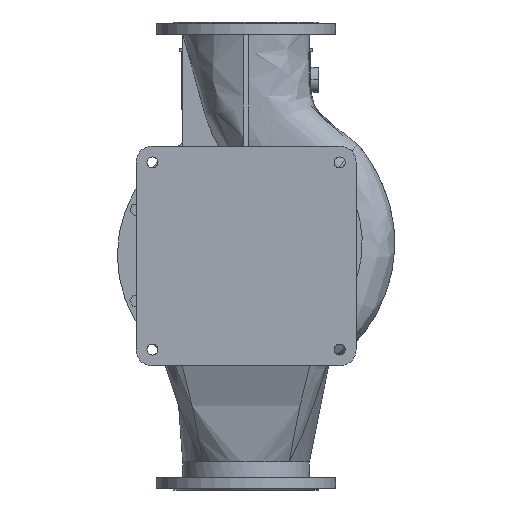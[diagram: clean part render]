
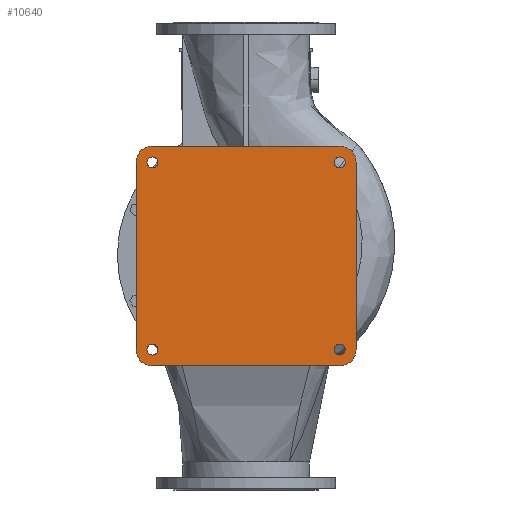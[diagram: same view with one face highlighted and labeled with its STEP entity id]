
A CAD part, front view. The second image highlights one B-rep face of the part: STEP entity #10640.
In plain terms, the highlighted planar face has unit normal (0, -1, 0).
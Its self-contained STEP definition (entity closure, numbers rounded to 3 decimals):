
#233 = EDGE_LOOP ( 'NONE', ( #7731, #9352 ) ) ;
#655 = LINE ( 'NONE', #32796, #36299 ) ;
#741 = CARTESIAN_POINT ( 'NONE',  ( 240., -290., 254. ) ) ;
#864 = CARTESIAN_POINT ( 'NONE',  ( -240., -290., 226. ) ) ;
#1161 = DIRECTION ( 'NONE',  ( 0., 1., 0. ) ) ;
#1386 = LINE ( 'NONE', #10170, #24339 ) ;
#1806 = ORIENTED_EDGE ( 'NONE', *, *, #2646, .F. ) ;
#2058 = CARTESIAN_POINT ( 'NONE',  ( 240., -290., 226. ) ) ;
#2646 = EDGE_CURVE ( 'NONE', #15135, #26067, #12590, .T. ) ;
#3631 = DIRECTION ( 'NONE',  ( 0., 0., 1. ) ) ;
#4041 = CARTESIAN_POINT ( 'NONE',  ( -240., -290., -240. ) ) ;
#4657 = ORIENTED_EDGE ( 'NONE', *, *, #7659, .F. ) ;
#5446 = CARTESIAN_POINT ( 'NONE',  ( 240., -290., -240. ) ) ;
#5621 = CARTESIAN_POINT ( 'NONE',  ( -240., -290., 240. ) ) ;
#5633 = DIRECTION ( 'NONE',  ( 0., 0., -1. ) ) ;
#5961 = CARTESIAN_POINT ( 'NONE',  ( -240., -290., 240. ) ) ;
#6209 = DIRECTION ( 'NONE',  ( 0., 0., -1. ) ) ;
#6739 = DIRECTION ( 'NONE',  ( 0., 0., -1. ) ) ;
#6744 = CIRCLE ( 'NONE', #25845, 14. ) ;
#7124 = CARTESIAN_POINT ( 'NONE',  ( -282., -290., 240. ) ) ;
#7137 = ORIENTED_EDGE ( 'NONE', *, *, #30358, .T. ) ;
#7164 = VERTEX_POINT ( 'NONE', #2058 ) ;
#7659 = EDGE_CURVE ( 'NONE', #19277, #18722, #655, .T. ) ;
#7731 = ORIENTED_EDGE ( 'NONE', *, *, #20603, .T. ) ;
#7747 = EDGE_CURVE ( 'NONE', #33507, #27019, #1386, .T. ) ;
#8233 = CARTESIAN_POINT ( 'NONE',  ( 282., -290., 240. ) ) ;
#8292 = DIRECTION ( 'NONE',  ( 0., 1., 0. ) ) ;
#8362 = AXIS2_PLACEMENT_3D ( 'NONE', #33262, #33084, #30270 ) ;
#8621 = FACE_BOUND ( 'NONE', #17256, .T. ) ;
#8665 = DIRECTION ( 'NONE',  ( 0., 0., -1. ) ) ;
#9115 = VERTEX_POINT ( 'NONE', #17830 ) ;
#9352 = ORIENTED_EDGE ( 'NONE', *, *, #19248, .T. ) ;
#9481 = CIRCLE ( 'NONE', #27374, 42. ) ;
#9556 = ORIENTED_EDGE ( 'NONE', *, *, #34848, .T. ) ;
#10026 = DIRECTION ( 'NONE',  ( 0., 0., -1. ) ) ;
#10170 = CARTESIAN_POINT ( 'NONE',  ( -282., -290., -240. ) ) ;
#10345 = DIRECTION ( 'NONE',  ( 0., 0., 1. ) ) ;
#10640 = ADVANCED_FACE ( 'NONE', ( #19655, #8621, #26005, #14233, #28255 ), #28067, .T. ) ;
#10673 = AXIS2_PLACEMENT_3D ( 'NONE', #5961, #17383, #20856 ) ;
#10791 = EDGE_CURVE ( 'NONE', #35278, #15135, #29239, .T. ) ;
#11187 = CARTESIAN_POINT ( 'NONE',  ( 240., -290., -240. ) ) ;
#11887 = ORIENTED_EDGE ( 'NONE', *, *, #34030, .F. ) ;
#12208 = CARTESIAN_POINT ( 'NONE',  ( -240., -290., -240. ) ) ;
#12346 = CARTESIAN_POINT ( 'NONE',  ( -240., -290., 282. ) ) ;
#12590 = LINE ( 'NONE', #34850, #26925 ) ;
#12663 = CARTESIAN_POINT ( 'NONE',  ( -240., -290., -282. ) ) ;
#13093 = AXIS2_PLACEMENT_3D ( 'NONE', #21125, #15521, #6739 ) ;
#13550 = VERTEX_POINT ( 'NONE', #28881 ) ;
#13721 = CARTESIAN_POINT ( 'NONE',  ( -240., -290., 240. ) ) ;
#14044 = CIRCLE ( 'NONE', #30138, 42. ) ;
#14233 = FACE_BOUND ( 'NONE', #233, .T. ) ;
#14800 = ORIENTED_EDGE ( 'NONE', *, *, #26995, .F. ) ;
#14937 = EDGE_LOOP ( 'NONE', ( #19863, #14800, #11887, #4657, #33845, #33231, #30647, #1806 ) ) ;
#15020 = VERTEX_POINT ( 'NONE', #25937 ) ;
#15135 = VERTEX_POINT ( 'NONE', #36327 ) ;
#15521 = DIRECTION ( 'NONE',  ( 0., 1., 0. ) ) ;
#16415 = CIRCLE ( 'NONE', #25972, 14. ) ;
#16852 = DIRECTION ( 'NONE',  ( 0., 1., 0. ) ) ;
#17037 = CARTESIAN_POINT ( 'NONE',  ( 240., -290., 240. ) ) ;
#17256 = EDGE_LOOP ( 'NONE', ( #21084, #7137 ) ) ;
#17383 = DIRECTION ( 'NONE',  ( 0., 1., 0. ) ) ;
#17473 = EDGE_CURVE ( 'NONE', #26067, #33507, #25525, .T. ) ;
#17830 = CARTESIAN_POINT ( 'NONE',  ( -240., -290., -254. ) ) ;
#17878 = CARTESIAN_POINT ( 'NONE',  ( 240., -290., -254. ) ) ;
#18101 = DIRECTION ( 'NONE',  ( 0., 1., 0. ) ) ;
#18119 = AXIS2_PLACEMENT_3D ( 'NONE', #35834, #18101, #32310 ) ;
#18338 = AXIS2_PLACEMENT_3D ( 'NONE', #13721, #8292, #25682 ) ;
#18650 = CARTESIAN_POINT ( 'NONE',  ( 240., -290., -226. ) ) ;
#18722 = VERTEX_POINT ( 'NONE', #32801 ) ;
#19248 = EDGE_CURVE ( 'NONE', #27495, #7164, #36960, .T. ) ;
#19277 = VERTEX_POINT ( 'NONE', #12346 ) ;
#19655 = FACE_BOUND ( 'NONE', #33076, .T. ) ;
#19863 = ORIENTED_EDGE ( 'NONE', *, *, #10791, .F. ) ;
#20118 = CIRCLE ( 'NONE', #18338, 14. ) ;
#20603 = EDGE_CURVE ( 'NONE', #7164, #27495, #36447, .T. ) ;
#20856 = DIRECTION ( 'NONE',  ( 0., 0., 1. ) ) ;
#21084 = ORIENTED_EDGE ( 'NONE', *, *, #25969, .T. ) ;
#21125 = CARTESIAN_POINT ( 'NONE',  ( 240., -290., -240. ) ) ;
#21967 = ORIENTED_EDGE ( 'NONE', *, *, #23703, .T. ) ;
#22033 = AXIS2_PLACEMENT_3D ( 'NONE', #5446, #31253, #5633 ) ;
#22882 = CARTESIAN_POINT ( 'NONE',  ( 240., -290., 240. ) ) ;
#23234 = LINE ( 'NONE', #31838, #31913 ) ;
#23267 = DIRECTION ( 'NONE',  ( -1., 0., 0. ) ) ;
#23274 = DIRECTION ( 'NONE',  ( 0., 1., 0. ) ) ;
#23602 = DIRECTION ( 'NONE',  ( 0., 0., 1. ) ) ;
#23703 = EDGE_CURVE ( 'NONE', #15020, #9115, #6744, .T. ) ;
#23709 = AXIS2_PLACEMENT_3D ( 'NONE', #11187, #33808, #28016 ) ;
#24339 = VECTOR ( 'NONE', #10345, 1000. ) ;
#24608 = ORIENTED_EDGE ( 'NONE', *, *, #28270, .T. ) ;
#24661 = CIRCLE ( 'NONE', #18119, 14. ) ;
#24857 = CIRCLE ( 'NONE', #23709, 14. ) ;
#25120 = DIRECTION ( 'NONE',  ( 0., 1., 0. ) ) ;
#25525 = CIRCLE ( 'NONE', #28518, 42. ) ;
#25625 = DIRECTION ( 'NONE',  ( 0., 0., 1. ) ) ;
#25682 = DIRECTION ( 'NONE',  ( 0., 0., 1. ) ) ;
#25845 = AXIS2_PLACEMENT_3D ( 'NONE', #31174, #23274, #3631 ) ;
#25937 = CARTESIAN_POINT ( 'NONE',  ( -240., -290., -226. ) ) ;
#25969 = EDGE_CURVE ( 'NONE', #32343, #33287, #24661, .T. ) ;
#25972 = AXIS2_PLACEMENT_3D ( 'NONE', #12208, #1161, #23602 ) ;
#26005 = FACE_OUTER_BOUND ( 'NONE', #14937, .T. ) ;
#26067 = VERTEX_POINT ( 'NONE', #12663 ) ;
#26925 = VECTOR ( 'NONE', #23267, 1000. ) ;
#26995 = EDGE_CURVE ( 'NONE', #28407, #35278, #23234, .T. ) ;
#27019 = VERTEX_POINT ( 'NONE', #7124 ) ;
#27034 = DIRECTION ( 'NONE',  ( 0., 1., 0. ) ) ;
#27374 = AXIS2_PLACEMENT_3D ( 'NONE', #22882, #25120, #8665 ) ;
#27495 = VERTEX_POINT ( 'NONE', #741 ) ;
#27726 = DIRECTION ( 'NONE',  ( 1., 0., 0. ) ) ;
#27863 = DIRECTION ( 'NONE',  ( 0., 0., -1. ) ) ;
#28016 = DIRECTION ( 'NONE',  ( 0., 0., 1. ) ) ;
#28067 = PLANE ( 'NONE',  #22033 ) ;
#28255 = FACE_BOUND ( 'NONE', #30037, .T. ) ;
#28270 = EDGE_CURVE ( 'NONE', #9115, #15020, #16415, .T. ) ;
#28407 = VERTEX_POINT ( 'NONE', #8233 ) ;
#28429 = DIRECTION ( 'NONE',  ( 0., 1., 0. ) ) ;
#28441 = EDGE_CURVE ( 'NONE', #27019, #19277, #14044, .T. ) ;
#28518 = AXIS2_PLACEMENT_3D ( 'NONE', #4041, #27034, #10026 ) ;
#28881 = CARTESIAN_POINT ( 'NONE',  ( -240., -290., 254. ) ) ;
#29239 = CIRCLE ( 'NONE', #13093, 42. ) ;
#30037 = EDGE_LOOP ( 'NONE', ( #24608, #21967 ) ) ;
#30138 = AXIS2_PLACEMENT_3D ( 'NONE', #5621, #16852, #27863 ) ;
#30270 = DIRECTION ( 'NONE',  ( 0., 0., 1. ) ) ;
#30358 = EDGE_CURVE ( 'NONE', #33287, #32343, #24857, .T. ) ;
#30386 = AXIS2_PLACEMENT_3D ( 'NONE', #17037, #28429, #25625 ) ;
#30647 = ORIENTED_EDGE ( 'NONE', *, *, #17473, .F. ) ;
#31174 = CARTESIAN_POINT ( 'NONE',  ( -240., -290., -240. ) ) ;
#31253 = DIRECTION ( 'NONE',  ( 0., -1., 0. ) ) ;
#31384 = CARTESIAN_POINT ( 'NONE',  ( 282., -290., -240. ) ) ;
#31838 = CARTESIAN_POINT ( 'NONE',  ( 282., -290., -240. ) ) ;
#31913 = VECTOR ( 'NONE', #6209, 1000. ) ;
#32310 = DIRECTION ( 'NONE',  ( 0., 0., 1. ) ) ;
#32343 = VERTEX_POINT ( 'NONE', #17878 ) ;
#32486 = ORIENTED_EDGE ( 'NONE', *, *, #32495, .T. ) ;
#32495 = EDGE_CURVE ( 'NONE', #13550, #36892, #20118, .T. ) ;
#32776 = CIRCLE ( 'NONE', #10673, 14. ) ;
#32796 = CARTESIAN_POINT ( 'NONE',  ( 240., -290., 282. ) ) ;
#32801 = CARTESIAN_POINT ( 'NONE',  ( 240., -290., 282. ) ) ;
#33076 = EDGE_LOOP ( 'NONE', ( #9556, #32486 ) ) ;
#33084 = DIRECTION ( 'NONE',  ( 0., 1., 0. ) ) ;
#33231 = ORIENTED_EDGE ( 'NONE', *, *, #7747, .F. ) ;
#33262 = CARTESIAN_POINT ( 'NONE',  ( 240., -290., 240. ) ) ;
#33287 = VERTEX_POINT ( 'NONE', #18650 ) ;
#33507 = VERTEX_POINT ( 'NONE', #33766 ) ;
#33766 = CARTESIAN_POINT ( 'NONE',  ( -282., -290., -240. ) ) ;
#33808 = DIRECTION ( 'NONE',  ( 0., 1., 0. ) ) ;
#33845 = ORIENTED_EDGE ( 'NONE', *, *, #28441, .F. ) ;
#34030 = EDGE_CURVE ( 'NONE', #18722, #28407, #9481, .T. ) ;
#34848 = EDGE_CURVE ( 'NONE', #36892, #13550, #32776, .T. ) ;
#34850 = CARTESIAN_POINT ( 'NONE',  ( -240., -290., -282. ) ) ;
#35278 = VERTEX_POINT ( 'NONE', #31384 ) ;
#35834 = CARTESIAN_POINT ( 'NONE',  ( 240., -290., -240. ) ) ;
#36299 = VECTOR ( 'NONE', #27726, 1000. ) ;
#36327 = CARTESIAN_POINT ( 'NONE',  ( 240., -290., -282. ) ) ;
#36447 = CIRCLE ( 'NONE', #8362, 14. ) ;
#36892 = VERTEX_POINT ( 'NONE', #864 ) ;
#36960 = CIRCLE ( 'NONE', #30386, 14. ) ;
